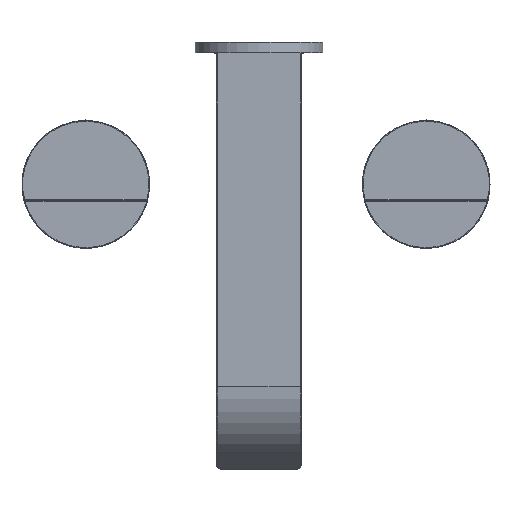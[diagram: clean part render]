
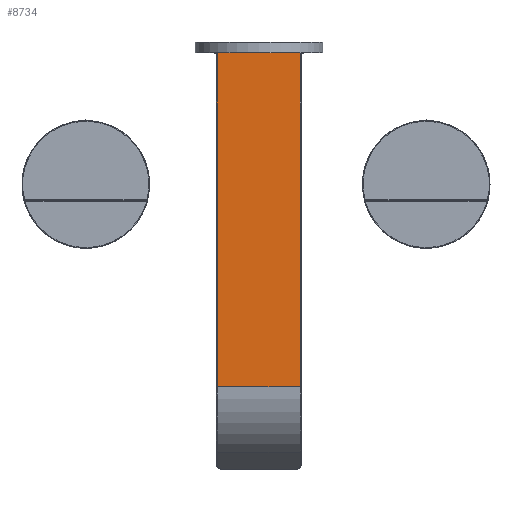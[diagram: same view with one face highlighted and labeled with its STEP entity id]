
A CAD part, top view. The second image highlights one B-rep face of the part: STEP entity #8734.
In plain terms, the highlighted planar face has unit normal (0, 0, 1).
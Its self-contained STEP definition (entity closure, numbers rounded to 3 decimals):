
#988=LINE('',#16242,#1533);
#1026=LINE('',#16499,#1571);
#1027=LINE('',#16502,#1572);
#1028=LINE('',#16503,#1573);
#1533=VECTOR('',#12519,39.);
#1571=VECTOR('',#12663,156.878);
#1572=VECTOR('',#12666,156.878);
#1573=VECTOR('',#12667,39.);
#2279=FACE_OUTER_BOUND('',#2871,.T.);
#2871=EDGE_LOOP('',(#7896,#7897,#7898,#7899));
#4164=VERTEX_POINT('',#16234);
#4166=VERTEX_POINT('',#16240);
#4208=VERTEX_POINT('',#16497);
#4209=VERTEX_POINT('',#16501);
#5379=EDGE_CURVE('',#4166,#4164,#988,.T.);
#5450=EDGE_CURVE('',#4208,#4166,#1026,.T.);
#5451=EDGE_CURVE('',#4164,#4209,#1027,.T.);
#5452=EDGE_CURVE('',#4208,#4209,#1028,.T.);
#7896=ORIENTED_EDGE('',*,*,#5451,.F.);
#7897=ORIENTED_EDGE('',*,*,#5379,.F.);
#7898=ORIENTED_EDGE('',*,*,#5450,.F.);
#7899=ORIENTED_EDGE('',*,*,#5452,.T.);
#8185=PLANE('',#9881);
#8734=ADVANCED_FACE('',(#2279),#8185,.T.);
#9881=AXIS2_PLACEMENT_3D('',#16500,#12664,#12665);
#12519=DIRECTION('',(-1.,0.,0.));
#12663=DIRECTION('',(0.,-1.,0.));
#12664=DIRECTION('center_axis',(0.,0.,
1.));
#12665=DIRECTION('ref_axis',(-1.,0.,0.));
#12666=DIRECTION('',(0.,1.,0.));
#12667=DIRECTION('',(-1.,0.,0.));
#16234=CARTESIAN_POINT('',(-18.243,-161.352,174.41));
#16240=CARTESIAN_POINT('',(20.757,-161.352,174.41));
#16242=CARTESIAN_POINT('',(20.757,-161.352,174.41));
#16497=CARTESIAN_POINT('',(20.757,-4.474,174.41));
#16499=CARTESIAN_POINT('',(20.757,-4.474,174.41));
#16500=CARTESIAN_POINT('Origin',(21.257,-4.474,174.41));
#16501=CARTESIAN_POINT('',(-18.243,-4.474,174.41));
#16502=CARTESIAN_POINT('',(-18.243,-161.352,174.41));
#16503=CARTESIAN_POINT('',(20.757,-4.474,174.41));
